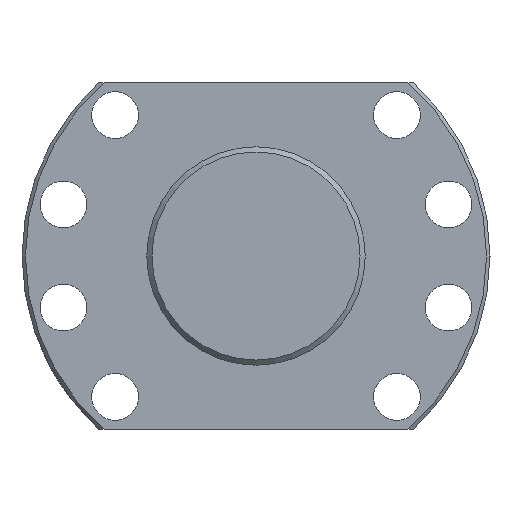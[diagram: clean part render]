
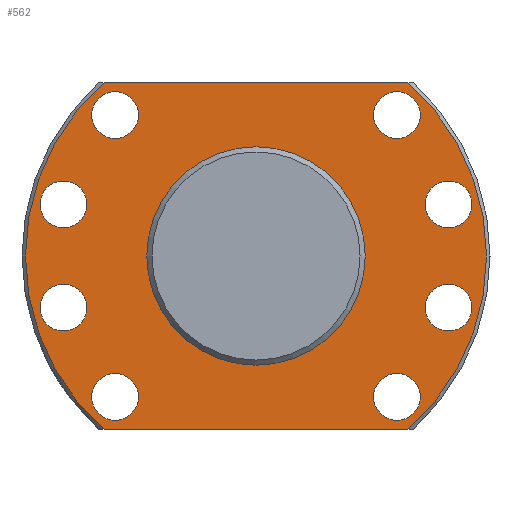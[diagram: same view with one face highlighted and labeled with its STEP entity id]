
A CAD part, left-side view. The second image highlights one B-rep face of the part: STEP entity #562.
In plain terms, the highlighted planar face has unit normal (-1, 0, 0).
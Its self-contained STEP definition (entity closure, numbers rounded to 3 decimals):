
#22=LINE('',#996,#30);
#23=LINE('',#997,#31);
#30=VECTOR('',#775,1000.);
#31=VECTOR('',#776,1000.);
#115=ORIENTED_EDGE('',*,*,#212,.T.);
#116=ORIENTED_EDGE('',*,*,#232,.T.);
#117=ORIENTED_EDGE('',*,*,#233,.T.);
#118=ORIENTED_EDGE('',*,*,#234,.T.);
#119=ORIENTED_EDGE('',*,*,#235,.T.);
#120=ORIENTED_EDGE('',*,*,#236,.T.);
#121=ORIENTED_EDGE('',*,*,#237,.T.);
#122=ORIENTED_EDGE('',*,*,#238,.T.);
#123=ORIENTED_EDGE('',*,*,#239,.T.);
#124=ORIENTED_EDGE('',*,*,#240,.F.);
#125=ORIENTED_EDGE('',*,*,#217,.F.);
#126=ORIENTED_EDGE('',*,*,#241,.F.);
#127=ORIENTED_EDGE('',*,*,#230,.F.);
#212=EDGE_CURVE('',#274,#274,#328,.T.);
#217=EDGE_CURVE('',#279,#277,#330,.T.);
#230=EDGE_CURVE('',#289,#290,#335,.T.);
#232=EDGE_CURVE('',#291,#291,#336,.T.);
#233=EDGE_CURVE('',#292,#292,#337,.T.);
#234=EDGE_CURVE('',#293,#293,#338,.T.);
#235=EDGE_CURVE('',#294,#294,#339,.T.);
#236=EDGE_CURVE('',#295,#295,#340,.T.);
#237=EDGE_CURVE('',#296,#296,#341,.T.);
#238=EDGE_CURVE('',#297,#297,#342,.T.);
#239=EDGE_CURVE('',#298,#298,#343,.T.);
#240=EDGE_CURVE('',#277,#289,#22,.T.);
#241=EDGE_CURVE('',#290,#279,#23,.T.);
#274=VERTEX_POINT('',#900);
#277=VERTEX_POINT('',#919);
#279=VERTEX_POINT('',#926);
#289=VERTEX_POINT('',#972);
#290=VERTEX_POINT('',#974);
#291=VERTEX_POINT('',#981);
#292=VERTEX_POINT('',#983);
#293=VERTEX_POINT('',#985);
#294=VERTEX_POINT('',#987);
#295=VERTEX_POINT('',#989);
#296=VERTEX_POINT('',#991);
#297=VERTEX_POINT('',#993);
#298=VERTEX_POINT('',#995);
#328=CIRCLE('',#628,31.5);
#330=CIRCLE('',#631,66.5);
#335=CIRCLE('',#640,66.5);
#336=CIRCLE('',#642,6.75);
#337=CIRCLE('',#643,6.75);
#338=CIRCLE('',#644,6.75);
#339=CIRCLE('',#645,6.75);
#340=CIRCLE('',#646,6.75);
#341=CIRCLE('',#647,6.75);
#342=CIRCLE('',#648,6.75);
#343=CIRCLE('',#649,6.75);
#384=EDGE_LOOP('',(#115));
#385=EDGE_LOOP('',(#116));
#386=EDGE_LOOP('',(#117));
#387=EDGE_LOOP('',(#118));
#388=EDGE_LOOP('',(#119));
#389=EDGE_LOOP('',(#120));
#390=EDGE_LOOP('',(#121));
#391=EDGE_LOOP('',(#122));
#392=EDGE_LOOP('',(#123));
#393=EDGE_LOOP('',(#124,#125,#126,#127));
#470=FACE_BOUND('',#384,.T.);
#471=FACE_BOUND('',#385,.T.);
#472=FACE_BOUND('',#386,.T.);
#473=FACE_BOUND('',#387,.T.);
#474=FACE_BOUND('',#388,.T.);
#475=FACE_BOUND('',#389,.T.);
#476=FACE_BOUND('',#390,.T.);
#477=FACE_BOUND('',#391,.T.);
#478=FACE_BOUND('',#392,.T.);
#479=FACE_BOUND('',#393,.T.);
#541=PLANE('',#641);
#562=ADVANCED_FACE('',(#470,#471,#472,#473,#474,#475,#476,#477,#478,#479),
#541,.T.);
#628=AXIS2_PLACEMENT_3D('',#899,#727,#728);
#631=AXIS2_PLACEMENT_3D('',#927,#733,#734);
#640=AXIS2_PLACEMENT_3D('',#973,#755,#756);
#641=AXIS2_PLACEMENT_3D('',#979,#757,#758);
#642=AXIS2_PLACEMENT_3D('',#980,#759,#760);
#643=AXIS2_PLACEMENT_3D('',#982,#761,#762);
#644=AXIS2_PLACEMENT_3D('',#984,#763,#764);
#645=AXIS2_PLACEMENT_3D('',#986,#765,#766);
#646=AXIS2_PLACEMENT_3D('',#988,#767,#768);
#647=AXIS2_PLACEMENT_3D('',#990,#769,#770);
#648=AXIS2_PLACEMENT_3D('',#992,#771,#772);
#649=AXIS2_PLACEMENT_3D('',#994,#773,#774);
#727=DIRECTION('',(1.,0.,0.));
#728=DIRECTION('',(0.,0.,-1.));
#733=DIRECTION('',(1.,0.,0.));
#734=DIRECTION('',(0.,0.,-1.));
#755=DIRECTION('',(1.,0.,0.));
#756=DIRECTION('',(0.,0.,-1.));
#757=DIRECTION('',(-1.,0.,0.));
#758=DIRECTION('',(0.,0.,1.));
#759=DIRECTION('',(1.,0.,0.));
#760=DIRECTION('',(0.,0.,-1.));
#761=DIRECTION('',(1.,0.,0.));
#762=DIRECTION('',(0.,0.,-1.));
#763=DIRECTION('',(1.,0.,0.));
#764=DIRECTION('',(0.,0.,-1.));
#765=DIRECTION('',(1.,0.,0.));
#766=DIRECTION('',(0.,0.,-1.));
#767=DIRECTION('',(1.,0.,0.));
#768=DIRECTION('',(0.,0.,-1.));
#769=DIRECTION('',(1.,0.,0.));
#770=DIRECTION('',(0.,0.,-1.));
#771=DIRECTION('',(1.,0.,0.));
#772=DIRECTION('',(0.,0.,-1.));
#773=DIRECTION('',(1.,0.,0.));
#774=DIRECTION('',(0.,0.,-1.));
#775=DIRECTION('',(0.,1.,0.));
#776=DIRECTION('',(0.,-1.,0.));
#899=CARTESIAN_POINT('',(0.,0.,0.));
#900=CARTESIAN_POINT('',(0.,0.,-31.5));
#919=CARTESIAN_POINT('',(0.,-43.843,-50.));
#926=CARTESIAN_POINT('',(0.,-43.843,50.));
#927=CARTESIAN_POINT('',(0.,0.,0.));
#972=CARTESIAN_POINT('',(0.,43.843,-50.));
#973=CARTESIAN_POINT('',(0.,0.,0.));
#974=CARTESIAN_POINT('',(0.,43.843,50.));
#979=CARTESIAN_POINT('',(0.,66.5,0.));
#980=CARTESIAN_POINT('',(0.,-40.659,40.659));
#981=CARTESIAN_POINT('',(0.,-40.659,33.909));
#982=CARTESIAN_POINT('',(0.,40.659,-40.659));
#983=CARTESIAN_POINT('',(0.,40.659,-47.409));
#984=CARTESIAN_POINT('',(0.,-40.659,-40.659));
#985=CARTESIAN_POINT('',(0.,-40.659,-47.409));
#986=CARTESIAN_POINT('',(0.,40.659,40.659));
#987=CARTESIAN_POINT('',(0.,40.659,33.909));
#988=CARTESIAN_POINT('',(0.,55.541,-14.882));
#989=CARTESIAN_POINT('',(0.,55.541,-21.632));
#990=CARTESIAN_POINT('',(0.,-55.541,14.882));
#991=CARTESIAN_POINT('',(0.,-55.541,8.132));
#992=CARTESIAN_POINT('',(0.,55.541,14.882));
#993=CARTESIAN_POINT('',(0.,55.541,8.132));
#994=CARTESIAN_POINT('',(0.,-55.541,-14.882));
#995=CARTESIAN_POINT('',(0.,-55.541,-21.632));
#996=CARTESIAN_POINT('',(0.,-100.,-50.));
#997=CARTESIAN_POINT('',(0.,100.,50.));
